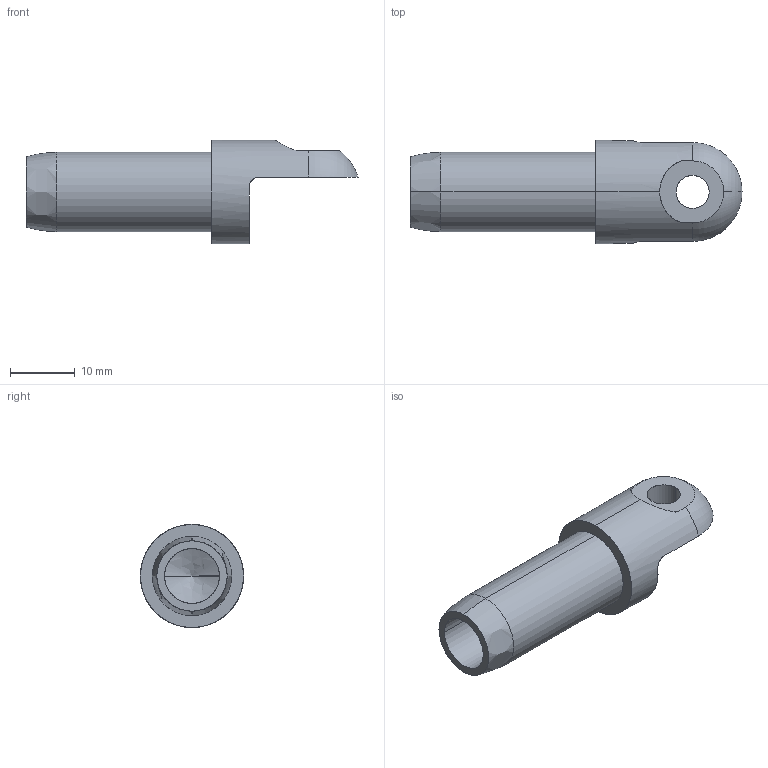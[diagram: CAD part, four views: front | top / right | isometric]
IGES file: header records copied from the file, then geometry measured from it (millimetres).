
Start section: SolidWorks IGES file using analytic representation for surfaces
Global section: file name: \\SERVER3\Design\_New Design Drive Folder List\_Design Vault\AAI\Modular Round Tube Connectors\Solidworks Models\Modular Connectors\0.500 In. Modular Connectors\Basic Models\0.500 In. Single Sided Clevis Connector.IGS; native system: SolidWorks 2013; preprocessor: SolidWorks 2013; author: tbraun; date: 140807.144938; units: inch
Bounding box: 51.1 x 15.88 x 15.88 mm (x, y, z)
Surface area: 3051.2 mm2 (no closed solid volume)
Topology: 0 solids, 0 shells, 22 faces, 426 edges, 424 vertices
Faces by surface type: revolution 15, bspline 7
